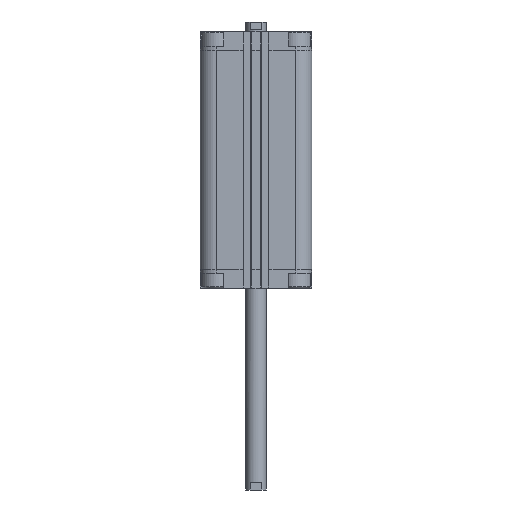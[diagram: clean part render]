
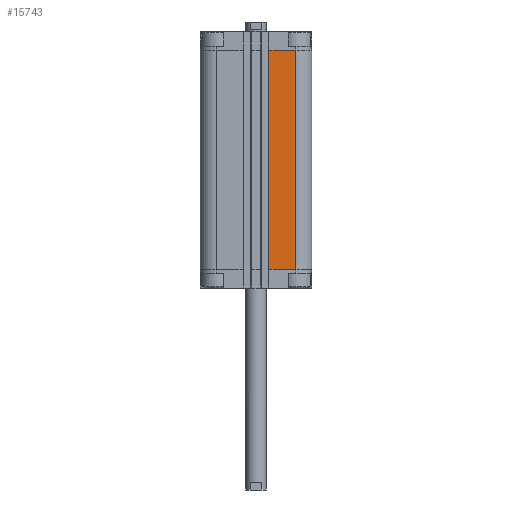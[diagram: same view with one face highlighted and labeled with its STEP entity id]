
A CAD part, front view. The second image highlights one B-rep face of the part: STEP entity #15743.
In plain terms, the highlighted planar face has unit normal (0, -1, 0).
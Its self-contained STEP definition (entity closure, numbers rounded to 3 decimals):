
#555 = LINE ( 'NONE', #9981, #2990 ) ;
#850 = LINE ( 'NONE', #5115, #9933 ) ;
#1005 = EDGE_CURVE ( 'NONE', #4568, #5552, #555, .T. ) ;
#1182 = AXIS2_PLACEMENT_3D ( 'NONE', #17710, #10078, #11571 ) ;
#1855 = EDGE_CURVE ( 'NONE', #14435, #5552, #850, .T. ) ;
#2417 = CARTESIAN_POINT ( 'NONE',  ( 31., -43.5, -185.5 ) ) ;
#2990 = VECTOR ( 'NONE', #3634, 1000. ) ;
#3555 = LINE ( 'NONE', #6429, #5153 ) ;
#3634 = DIRECTION ( 'NONE',  ( 0., 0., 1. ) ) ;
#4568 = VERTEX_POINT ( 'NONE', #2417 ) ;
#4667 = ORIENTED_EDGE ( 'NONE', *, *, #1855, .F. ) ;
#4985 = CARTESIAN_POINT ( 'NONE',  ( 10.05, -43.5, -185.5 ) ) ;
#5115 = CARTESIAN_POINT ( 'NONE',  ( 10.05, -43.5, -14.5 ) ) ;
#5153 = VECTOR ( 'NONE', #14179, 1000. ) ;
#5552 = VERTEX_POINT ( 'NONE', #13625 ) ;
#5759 = ORIENTED_EDGE ( 'NONE', *, *, #1005, .T. ) ;
#6429 = CARTESIAN_POINT ( 'NONE',  ( 10.05, -43.5, -185.5 ) ) ;
#6867 = VECTOR ( 'NONE', #9206, 1000. ) ;
#7095 = FACE_OUTER_BOUND ( 'NONE', #9440, .T. ) ;
#7706 = CARTESIAN_POINT ( 'NONE',  ( 10.05, -43.5, -185.5 ) ) ;
#9206 = DIRECTION ( 'NONE',  ( 1., 0., 0. ) ) ;
#9440 = EDGE_LOOP ( 'NONE', ( #4667, #12781, #12716, #5759 ) ) ;
#9933 = VECTOR ( 'NONE', #11168, 1000. ) ;
#9981 = CARTESIAN_POINT ( 'NONE',  ( 31., -43.5, -185.5 ) ) ;
#10078 = DIRECTION ( 'NONE',  ( 0., -1., 0. ) ) ;
#11051 = CARTESIAN_POINT ( 'NONE',  ( 10.05, -43.5, -14.5 ) ) ;
#11168 = DIRECTION ( 'NONE',  ( 1., 0., 0. ) ) ;
#11571 = DIRECTION ( 'NONE',  ( -1., 0., 0. ) ) ;
#12716 = ORIENTED_EDGE ( 'NONE', *, *, #15454, .T. ) ;
#12781 = ORIENTED_EDGE ( 'NONE', *, *, #16422, .F. ) ;
#13625 = CARTESIAN_POINT ( 'NONE',  ( 31., -43.5, -14.5 ) ) ;
#14179 = DIRECTION ( 'NONE',  ( 0., 0., 1. ) ) ;
#14347 = PLANE ( 'NONE',  #1182 ) ;
#14435 = VERTEX_POINT ( 'NONE', #11051 ) ;
#15454 = EDGE_CURVE ( 'NONE', #16714, #4568, #16630, .T. ) ;
#15743 = ADVANCED_FACE ( 'NONE', ( #7095 ), #14347, .T. ) ;
#16422 = EDGE_CURVE ( 'NONE', #16714, #14435, #3555, .T. ) ;
#16630 = LINE ( 'NONE', #7706, #6867 ) ;
#16714 = VERTEX_POINT ( 'NONE', #4985 ) ;
#17710 = CARTESIAN_POINT ( 'NONE',  ( 10.05, -43.5, -185.5 ) ) ;
